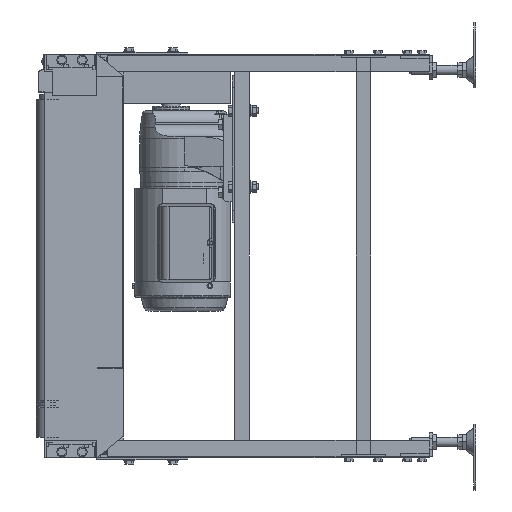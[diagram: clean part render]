
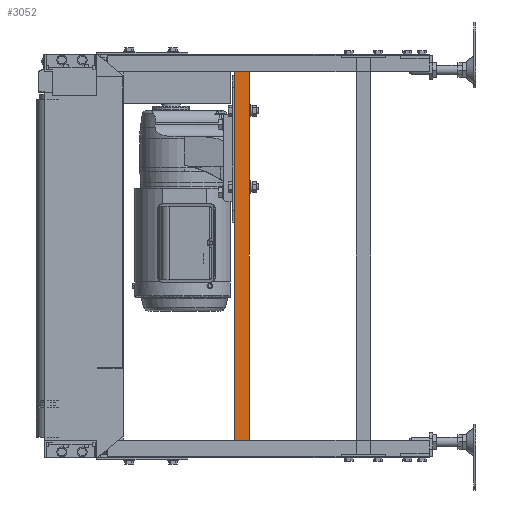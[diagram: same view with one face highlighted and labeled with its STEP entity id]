
A CAD part, left-side view. The second image highlights one B-rep face of the part: STEP entity #3052.
In plain terms, the highlighted planar face has unit normal (-1, 0, 0).
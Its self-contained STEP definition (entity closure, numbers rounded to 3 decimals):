
#3052=ADVANCED_FACE('',(#23175),#23174,.F.);
#23174=PLANE('',#47445);
#23175=FACE_OUTER_BOUND('',#47446,.T.);
#47442=CARTESIAN_POINT('',(2694.5,-366.3,346.));
#47443=DIRECTION('',(1.,0.,0.));
#47444=DIRECTION('',(0.,0.,-1.));
#47445=AXIS2_PLACEMENT_3D('',#47442,#47443,#47444);
#47446=EDGE_LOOP('',(#64238,#64239,#64240,#64241));
#64238=ORIENTED_EDGE('',*,*,#76075,.F.);
#64239=ORIENTED_EDGE('',*,*,#76076,.T.);
#64240=ORIENTED_EDGE('',*,*,#75956,.T.);
#64241=ORIENTED_EDGE('',*,*,#76008,.F.);
#75956=EDGE_CURVE('',#111285,#111277,#111286,.T.);
#76008=EDGE_CURVE('',#111638,#111277,#111645,.T.);
#76075=EDGE_CURVE('',#112080,#111638,#112081,.T.);
#76076=EDGE_CURVE('',#112080,#111285,#112087,.T.);
#111277=VERTEX_POINT('',#154165);
#111285=VERTEX_POINT('',#154170);
#111286=LINE('',#154171,#154172);
#111638=VERTEX_POINT('',#154373);
#111645=LINE('',#154377,#154378);
#112080=VERTEX_POINT('',#154616);
#112081=LINE('',#154617,#154618);
#112087=LINE('',#154620,#154621);
#154165=CARTESIAN_POINT('',(2694.5,-338.8,336.));
#154170=CARTESIAN_POINT('',(2694.5,-363.8,336.));
#154171=CARTESIAN_POINT('',(2694.5,-363.8,336.));
#154172=VECTOR('',#154173,25.);
#154173=DIRECTION('',(0.,1.,0.));
#154373=CARTESIAN_POINT('',(2694.5,-338.8,-294.));
#154377=CARTESIAN_POINT('',(2694.5,-338.8,-294.));
#154378=VECTOR('',#154379,630.);
#154379=DIRECTION('',(0.,0.,1.));
#154616=CARTESIAN_POINT('',(2694.5,-363.8,-294.));
#154617=CARTESIAN_POINT('',(2694.5,-363.8,-294.));
#154618=VECTOR('',#154619,25.);
#154619=DIRECTION('',(0.,1.,0.));
#154620=CARTESIAN_POINT('',(2694.5,-363.8,-294.));
#154621=VECTOR('',#154622,630.);
#154622=DIRECTION('',(0.,0.,1.));
